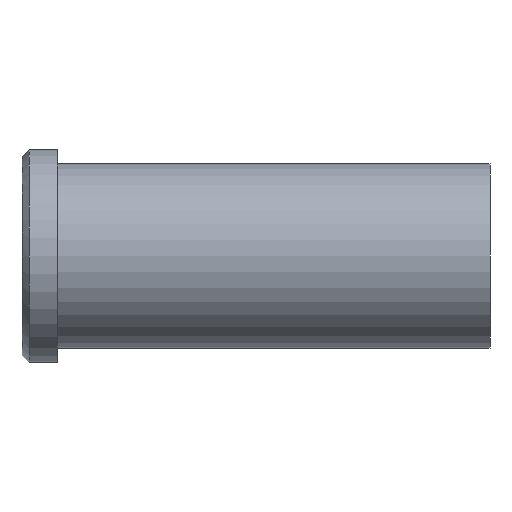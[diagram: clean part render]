
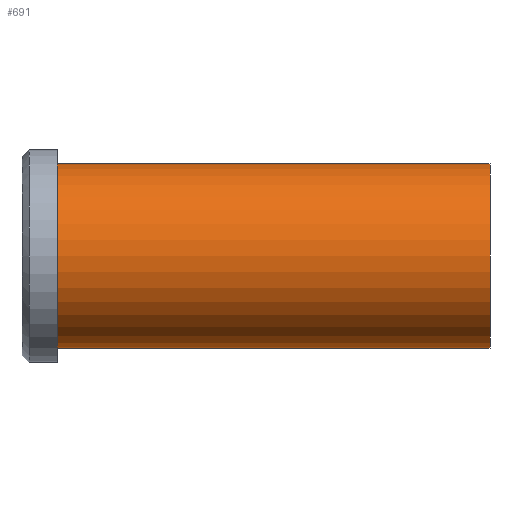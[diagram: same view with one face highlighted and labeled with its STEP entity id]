
A CAD part, front view. The second image highlights one B-rep face of the part: STEP entity #691.
In plain terms, the highlighted cylindrical face has radius 13 mm (diameter 26 mm), a partial arc.
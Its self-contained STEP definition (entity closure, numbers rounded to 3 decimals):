
#501=CARTESIAN_POINT('Vertex',(0.,0.,-13.)) ;
#506=CARTESIAN_POINT('Axis2P3D Location',(0.,0.,0.)) ;
#510=CARTESIAN_POINT('Vertex',(0.,-13.,0.)) ;
#513=CARTESIAN_POINT('Axis2P3D Location',(0.,0.,0.)) ;
#517=CARTESIAN_POINT('Vertex',(0.,0.,13.)) ;
#631=CARTESIAN_POINT('Line Origine',(61.,0.,13.)) ;
#635=CARTESIAN_POINT('Vertex',(61.,0.,13.)) ;
#649=CARTESIAN_POINT('Vertex',(61.,0.,-13.)) ;
#652=CARTESIAN_POINT('Line Origine',(61.,0.,-13.)) ;
#666=CARTESIAN_POINT('Axis2P3D Location',(61.,0.,0.)) ;
#671=CARTESIAN_POINT('Axis2P3D Location',(61.,0.,0.)) ;
#675=CARTESIAN_POINT('Vertex',(61.,-13.,0.)) ;
#678=CARTESIAN_POINT('Axis2P3D Location',(61.,0.,0.)) ;
#507=DIRECTION('Axis2P3D Direction',(1.,0.,-0.)) ;
#514=DIRECTION('Axis2P3D Direction',(1.,0.,-0.)) ;
#632=DIRECTION('Vector Direction',(-1.,0.,0.)) ;
#653=DIRECTION('Vector Direction',(-1.,0.,0.)) ;
#667=DIRECTION('Axis2P3D Direction',(-1.,-0.,-0.)) ;
#668=DIRECTION('Axis2P3D XDirection',(0.,0.,-1.)) ;
#672=DIRECTION('Axis2P3D Direction',(-1.,-0.,-0.)) ;
#679=DIRECTION('Axis2P3D Direction',(-1.,-0.,-0.)) ;
#508=AXIS2_PLACEMENT_3D('Circle Axis2P3D',#506,#507,$) ;
#515=AXIS2_PLACEMENT_3D('Circle Axis2P3D',#513,#514,$) ;
#669=AXIS2_PLACEMENT_3D('Cylinder Axis2P3D',#666,#667,#668) ;
#673=AXIS2_PLACEMENT_3D('Circle Axis2P3D',#671,#672,$) ;
#680=AXIS2_PLACEMENT_3D('Circle Axis2P3D',#678,#679,$) ;
#684=ORIENTED_EDGE('',*,*,#656,.T.) ;
#685=ORIENTED_EDGE('',*,*,#677,.F.) ;
#686=ORIENTED_EDGE('',*,*,#682,.F.) ;
#687=ORIENTED_EDGE('',*,*,#637,.T.) ;
#688=ORIENTED_EDGE('',*,*,#519,.T.) ;
#689=ORIENTED_EDGE('',*,*,#512,.T.) ;
#633=VECTOR('Line Direction',#632,1.) ;
#654=VECTOR('Line Direction',#653,1.) ;
#691=ADVANCED_FACE('353-18X66',(#690),#670,.T.) ;
#509=CIRCLE('generated circle',#508,13.) ;
#516=CIRCLE('generated circle',#515,13.) ;
#674=CIRCLE('generated circle',#673,13.) ;
#681=CIRCLE('generated circle',#680,13.) ;
#670=CYLINDRICAL_SURFACE('generated cylinder',#669,13.) ;
#512=EDGE_CURVE('',#511,#502,#509,.T.) ;
#519=EDGE_CURVE('',#518,#511,#516,.T.) ;
#637=EDGE_CURVE('',#636,#518,#634,.T.) ;
#656=EDGE_CURVE('',#502,#650,#655,.F.) ;
#677=EDGE_CURVE('',#676,#650,#674,.F.) ;
#682=EDGE_CURVE('',#636,#676,#681,.F.) ;
#683=EDGE_LOOP('',(#684,#685,#686,#687,#688,#689)) ;
#690=FACE_OUTER_BOUND('',#683,.T.) ;
#634=LINE('Line',#631,#633) ;
#655=LINE('Line',#652,#654) ;
#502=VERTEX_POINT('',#501) ;
#511=VERTEX_POINT('',#510) ;
#518=VERTEX_POINT('',#517) ;
#636=VERTEX_POINT('',#635) ;
#650=VERTEX_POINT('',#649) ;
#676=VERTEX_POINT('',#675) ;
